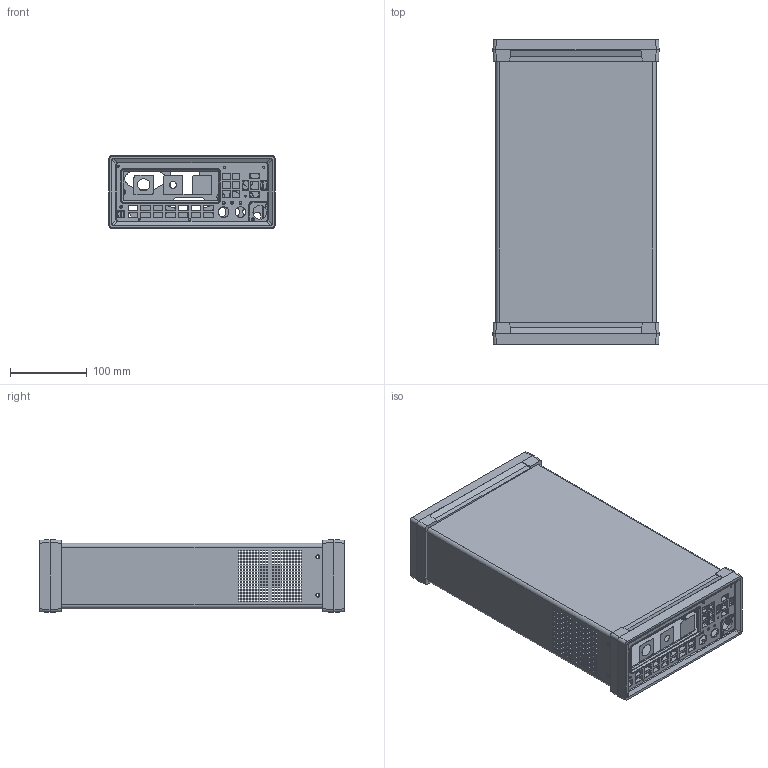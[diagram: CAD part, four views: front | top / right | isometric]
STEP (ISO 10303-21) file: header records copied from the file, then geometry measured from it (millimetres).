
FILE_DESCRIPTION((''),'2;1');
FILE_NAME('MASTER_LULE_ASM','2020-08-28T09:55:39',('mthomps2'),(''),'CREO PARAMETRIC BY PTC INC, 2019080','CREO PARAMETRIC BY PTC INC, 2019080','');
FILE_SCHEMA(('CONFIG_CONTROL_DESIGN','SHAPE_APPEARANCE_LAYERS_GROUPS'));
Length unit declared in the file: inch
Products named in the file (10): MASTER_SKEL_LULE; CHASSIS_COVER_LULE; S-M4-0; CHASSIS_COVER_LULE_ASM; MODULE_CHASSIS_COVER_ASM; BEZEL_FRONT_LULE; BOOT_CHASSIS_LULE; LABEL_FRONT_LULE; LABEL_REAR_LULE; MASTER_LULE_ASM
Assembly tree (14 placements, depth 4):
  MASTER_LULE_ASM
    MASTER_SKEL_LULE
    MODULE_CHASSIS_COVER_ASM
      CHASSIS_COVER_LULE_ASM
        CHASSIS_COVER_LULE
        S-M4-0  x4
    CHASSIS_COVER_LULE
    BEZEL_FRONT_LULE
    BOOT_CHASSIS_LULE  x2
    LABEL_FRONT_LULE
    LABEL_REAR_LULE
Bounding box: 216.92 x 397.37 x 94.74 mm (x, y, z)
Volume: 401214.2 mm3; surface area: 1106461 mm2
Topology: 17 solids, 23 shells, 7200 faces, 21308 edges, 13894 vertices
Faces by surface type: plane 6207, cylinder 486, sphere 324, cone 171, bspline 8, torus 4
Entity records: 171870 total; most frequent: CARTESIAN_POINT 24647, ORIENTED_EDGE 23446, DIRECTION 20922, EDGE_CURVE 11742, PRESENTATION_STYLE_ASSIGNMENT 11654, STYLED_ITEM 11386, CURVE_STYLE 11372, VECTOR 10300
